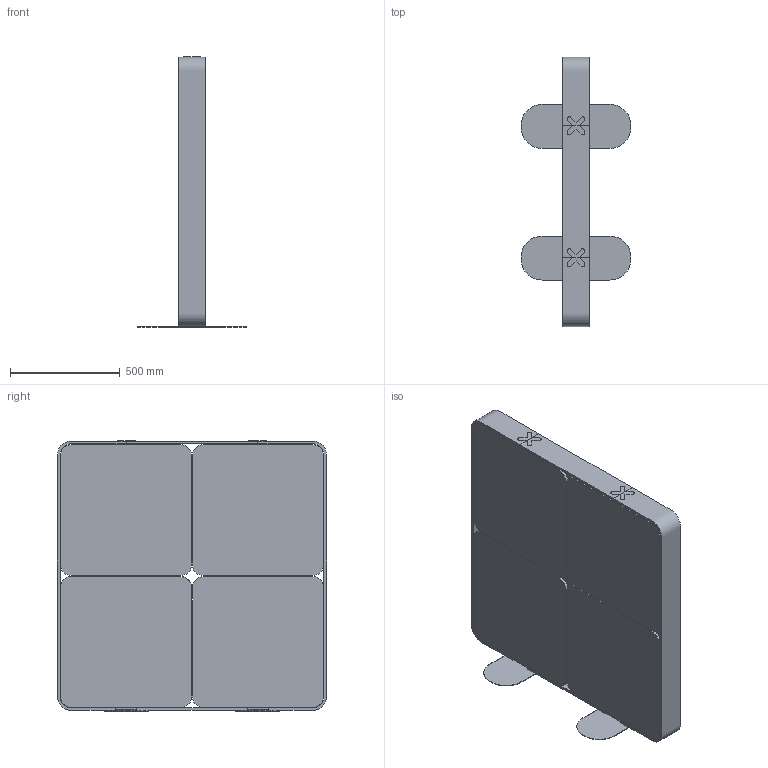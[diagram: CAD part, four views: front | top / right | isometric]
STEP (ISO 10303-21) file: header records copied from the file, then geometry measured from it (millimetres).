
FILE_DESCRIPTION(/* description */ (''),/* implementation_level */ '2;1');
FILE_NAME(/* name */ 'QW 1200',/* time_stamp */ '2026-06-15T17:28:25+12:00',/* author */ (''),/* organization */ (''),/* preprocessor_version */ 'ST-DEVELOPER v19.2',/* originating_system */ 'Rhino 8.31',/* authorisation */ '');
FILE_SCHEMA (('CONFIG_CONTROL_DESIGN'));
Length unit declared in the file: millimetre
Products named in the file (7): Document; 1200 Capping Bottom; 600x600 Tile; Foot; 20mm JCN; CurvedCapping; 1200mm Capping Top
Bounding box: 499.19 x 1224.16 x 1228.55 mm (x, y, z)
Volume: 43563129.7 mm3; surface area: 7795932 mm2
Topology: 26 solids, 26 shells, 442 faces, 1002 edges, 644 vertices
Faces by surface type: plane 212, cylinder 168, bspline 62
Entity records: 13124 total; most frequent: CARTESIAN_POINT 5584, ORIENTED_EDGE 1584, DIRECTION 898, EDGE_CURVE 792, AXIS2_PLACEMENT_3D 598, VERTEX_POINT 510, B_SPLINE_CURVE_WITH_KNOTS 470, EDGE_LOOP 396
